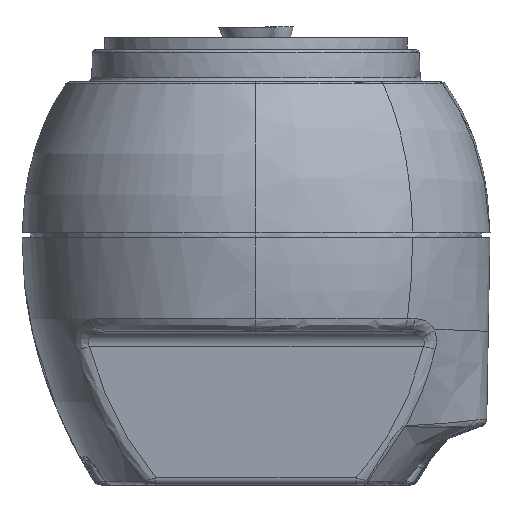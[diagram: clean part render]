
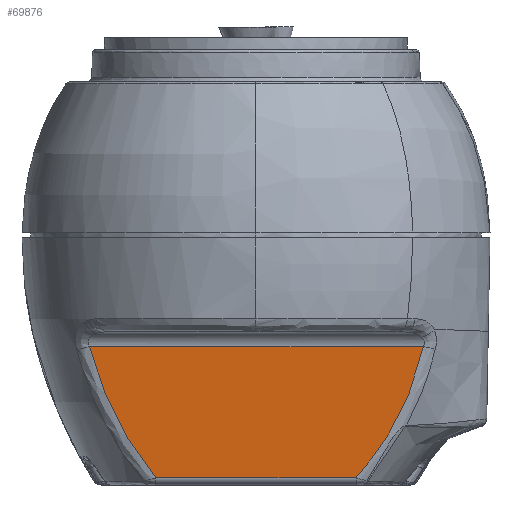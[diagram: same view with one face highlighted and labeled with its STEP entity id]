
A CAD part, left-side view. The second image highlights one B-rep face of the part: STEP entity #69876.
In plain terms, the highlighted planar face has unit normal (-0.996, 0, -0.087).
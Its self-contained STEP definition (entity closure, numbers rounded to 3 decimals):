
#2793=PLANE('',#75458);
#8733=FACE_OUTER_BOUND('',#12317,.T.);
#12317=EDGE_LOOP('',(#61502,#61503,#61504,#61505));
#13920=B_SPLINE_CURVE_WITH_KNOTS('',3,(#183064,#183065,#183066,#183067,
#183068,#183069,#183070,#183071,#183072,#183073,#183074,#183075,#183076,
#183077,#183078,#183079,#183080,#183081,#183082,#183083,#183084,#183085,
#183086,#183087,#183088,#183089,#183090,#183091,#183092,#183093,#183094,
#183095,#183096,#183097,#183098,#183099,#183100,#183101,#183102,#183103,
#183104,#183105,#183106,#183107,#183108,#183109,#183110,#183111,#183112,
#183113,#183114,#183115,#183116,#183117,#183118,#183119,#183120,#183121),
 .UNSPECIFIED.,.F.,.F.,(4,3,3,3,3,3,3,3,3,3,3,3,3,3,3,3,3,3,3,4),(0.,0.075,
0.133,0.206,0.257,0.333,0.371,
0.425,0.478,0.531,0.574,
0.631,0.661,0.667,0.738,0.807,
0.869,0.925,0.975,1.),.UNSPECIFIED.);
#13935=B_SPLINE_CURVE_WITH_KNOTS('',3,(#184168,#184169,#184170,#184171,
#184172,#184173,#184174,#184175,#184176,#184177,#184178,#184179,#184180,
#184181,#184182,#184183,#184184,#184185,#184186,#184187,#184188,#184189),
 .UNSPECIFIED.,.F.,.F.,(4,3,3,3,3,3,3,4),(0.,0.094,0.245,
0.416,0.588,0.744,0.881,1.),
 .UNSPECIFIED.);
#19637=LINE('',#184163,#25380);
#19638=LINE('',#184167,#25381);
#25380=VECTOR('',#92147,12.429);
#25381=VECTOR('',#92152,20.716);
#31809=VERTEX_POINT('',#182831);
#31811=VERTEX_POINT('',#183063);
#31829=VERTEX_POINT('',#184162);
#31830=VERTEX_POINT('',#184166);
#41716=EDGE_CURVE('',#31809,#31811,#13920,.T.);
#41760=EDGE_CURVE('',#31811,#31829,#19637,.T.);
#41762=EDGE_CURVE('',#31830,#31809,#19638,.T.);
#41763=EDGE_CURVE('',#31829,#31830,#13935,.T.);
#61502=ORIENTED_EDGE('',*,*,#41716,.F.);
#61503=ORIENTED_EDGE('',*,*,#41762,.F.);
#61504=ORIENTED_EDGE('',*,*,#41763,.F.);
#61505=ORIENTED_EDGE('',*,*,#41760,.F.);
#69876=ADVANCED_FACE('',(#8733),#2793,.F.);
#75458=AXIS2_PLACEMENT_3D('',#184165,#92150,#92151);
#92147=DIRECTION('',(0.,1.,0.));
#92150=DIRECTION('center_axis',(0.996,0.,
0.087));
#92151=DIRECTION('ref_axis',(0.087,0.,-0.996));
#92152=DIRECTION('',(0.,-1.,0.));
#182831=CARTESIAN_POINT('',(-55.761,-10.387,-18.413));
#183063=CARTESIAN_POINT('',(-55.05,-6.217,-26.544));
#183064=CARTESIAN_POINT('Ctrl Pts',(-55.761,-10.387,
-18.413));
#183065=CARTESIAN_POINT('Ctrl Pts',(-55.741,-10.335,
-18.649));
#183066=CARTESIAN_POINT('Ctrl Pts',(-55.72,-10.278,
-18.882));
#183067=CARTESIAN_POINT('Ctrl Pts',(-55.7,-10.218,
-19.113));
#183068=CARTESIAN_POINT('Ctrl Pts',(-55.684,-10.171,
-19.291));
#183069=CARTESIAN_POINT('Ctrl Pts',(-55.669,-10.122,
-19.468));
#183070=CARTESIAN_POINT('Ctrl Pts',(-55.654,-10.071,
-19.642));
#183071=CARTESIAN_POINT('Ctrl Pts',(-55.635,-10.008,
-19.861));
#183072=CARTESIAN_POINT('Ctrl Pts',(-55.616,-9.941,
-20.076));
#183073=CARTESIAN_POINT('Ctrl Pts',(-55.597,-9.871,
-20.288));
#183074=CARTESIAN_POINT('Ctrl Pts',(-55.584,-9.822,
-20.437));
#183075=CARTESIAN_POINT('Ctrl Pts',(-55.571,-9.772,
-20.584));
#183076=CARTESIAN_POINT('Ctrl Pts',(-55.559,-9.72,
-20.729));
#183077=CARTESIAN_POINT('Ctrl Pts',(-55.54,-9.642,
-20.947));
#183078=CARTESIAN_POINT('Ctrl Pts',(-55.521,-9.56,
-21.162));
#183079=CARTESIAN_POINT('Ctrl Pts',(-55.502,-9.476,
-21.372));
#183080=CARTESIAN_POINT('Ctrl Pts',(-55.493,-9.434,
-21.477));
#183081=CARTESIAN_POINT('Ctrl Pts',(-55.484,-9.392,
-21.58));
#183082=CARTESIAN_POINT('Ctrl Pts',(-55.475,-9.348,
-21.682));
#183083=CARTESIAN_POINT('Ctrl Pts',(-55.463,-9.288,
-21.825));
#183084=CARTESIAN_POINT('Ctrl Pts',(-55.45,-9.226,
-21.965));
#183085=CARTESIAN_POINT('Ctrl Pts',(-55.438,-9.162,
-22.105));
#183086=CARTESIAN_POINT('Ctrl Pts',(-55.426,-9.098,
-22.244));
#183087=CARTESIAN_POINT('Ctrl Pts',(-55.414,-9.032,
-22.382));
#183088=CARTESIAN_POINT('Ctrl Pts',(-55.402,-8.964,
-22.519));
#183089=CARTESIAN_POINT('Ctrl Pts',(-55.39,-8.897,
-22.656));
#183090=CARTESIAN_POINT('Ctrl Pts',(-55.378,-8.827,
-22.792));
#183091=CARTESIAN_POINT('Ctrl Pts',(-55.366,-8.755,
-22.928));
#183092=CARTESIAN_POINT('Ctrl Pts',(-55.357,-8.696,
-23.038));
#183093=CARTESIAN_POINT('Ctrl Pts',(-55.347,-8.636,
-23.149));
#183094=CARTESIAN_POINT('Ctrl Pts',(-55.337,-8.574,
-23.259));
#183095=CARTESIAN_POINT('Ctrl Pts',(-55.325,-8.492,
-23.403));
#183096=CARTESIAN_POINT('Ctrl Pts',(-55.312,-8.408,
-23.547));
#183097=CARTESIAN_POINT('Ctrl Pts',(-55.299,-8.321,
-23.691));
#183098=CARTESIAN_POINT('Ctrl Pts',(-55.293,-8.275,
-23.767));
#183099=CARTESIAN_POINT('Ctrl Pts',(-55.286,-8.229,
-23.843));
#183100=CARTESIAN_POINT('Ctrl Pts',(-55.28,-8.181,-23.918));
#183101=CARTESIAN_POINT('Ctrl Pts',(-55.278,-8.172,
-23.933));
#183102=CARTESIAN_POINT('Ctrl Pts',(-55.277,-8.162,
-23.948));
#183103=CARTESIAN_POINT('Ctrl Pts',(-55.276,-8.153,-23.963));
#183104=CARTESIAN_POINT('Ctrl Pts',(-55.26,-8.038,
-24.144));
#183105=CARTESIAN_POINT('Ctrl Pts',(-55.244,-7.919,
-24.327));
#183106=CARTESIAN_POINT('Ctrl Pts',(-55.228,-7.794,-24.511));
#183107=CARTESIAN_POINT('Ctrl Pts',(-55.212,-7.674,
-24.688));
#183108=CARTESIAN_POINT('Ctrl Pts',(-55.197,-7.549,
-24.866));
#183109=CARTESIAN_POINT('Ctrl Pts',(-55.181,-7.419,
-25.044));
#183110=CARTESIAN_POINT('Ctrl Pts',(-55.167,-7.302,
-25.205));
#183111=CARTESIAN_POINT('Ctrl Pts',(-55.153,-7.181,
-25.365));
#183112=CARTESIAN_POINT('Ctrl Pts',(-55.139,-7.056,
-25.526));
#183113=CARTESIAN_POINT('Ctrl Pts',(-55.126,-6.944,
-25.671));
#183114=CARTESIAN_POINT('Ctrl Pts',(-55.114,-6.828,
-25.816));
#183115=CARTESIAN_POINT('Ctrl Pts',(-55.101,-6.71,
-25.96));
#183116=CARTESIAN_POINT('Ctrl Pts',(-55.089,-6.602,
-26.092));
#183117=CARTESIAN_POINT('Ctrl Pts',(-55.078,-6.492,
-26.223));
#183118=CARTESIAN_POINT('Ctrl Pts',(-55.067,-6.38,
-26.354));
#183119=CARTESIAN_POINT('Ctrl Pts',(-55.061,-6.326,
-26.417));
#183120=CARTESIAN_POINT('Ctrl Pts',(-55.055,-6.272,
-26.48));
#183121=CARTESIAN_POINT('Ctrl Pts',(-55.05,-6.217,
-26.544));
#184162=CARTESIAN_POINT('',(-55.05,6.213,-26.544));
#184163=CARTESIAN_POINT('',(-55.05,-6.217,-26.544));
#184165=CARTESIAN_POINT('Origin',(-55.469,0.008,-21.75));
#184166=CARTESIAN_POINT('',(-55.761,10.329,-18.413));
#184167=CARTESIAN_POINT('',(-55.761,10.329,-18.413));
#184168=CARTESIAN_POINT('Ctrl Pts',(-55.05,6.213,
-26.544));
#184169=CARTESIAN_POINT('Ctrl Pts',(-55.069,6.398,
-26.325));
#184170=CARTESIAN_POINT('Ctrl Pts',(-55.089,6.577,
-26.102));
#184171=CARTESIAN_POINT('Ctrl Pts',(-55.108,6.751,
-25.875));
#184172=CARTESIAN_POINT('Ctrl Pts',(-55.141,7.033,
-25.506));
#184173=CARTESIAN_POINT('Ctrl Pts',(-55.174,7.301,-25.127));
#184174=CARTESIAN_POINT('Ctrl Pts',(-55.208,7.554,
-24.738));
#184175=CARTESIAN_POINT('Ctrl Pts',(-55.246,7.84,
-24.3));
#184176=CARTESIAN_POINT('Ctrl Pts',(-55.286,8.108,
-23.849));
#184177=CARTESIAN_POINT('Ctrl Pts',(-55.326,8.359,
-23.39));
#184178=CARTESIAN_POINT('Ctrl Pts',(-55.366,8.612,
-22.927));
#184179=CARTESIAN_POINT('Ctrl Pts',(-55.408,8.847,-22.454));
#184180=CARTESIAN_POINT('Ctrl Pts',(-55.45,9.065,
-21.974));
#184181=CARTESIAN_POINT('Ctrl Pts',(-55.488,9.262,
-21.541));
#184182=CARTESIAN_POINT('Ctrl Pts',(-55.526,9.444,-21.101));
#184183=CARTESIAN_POINT('Ctrl Pts',(-55.565,9.613,
-20.655));
#184184=CARTESIAN_POINT('Ctrl Pts',(-55.6,9.761,
-20.262));
#184185=CARTESIAN_POINT('Ctrl Pts',(-55.634,9.899,
-19.864));
#184186=CARTESIAN_POINT('Ctrl Pts',(-55.669,10.026,
-19.463));
#184187=CARTESIAN_POINT('Ctrl Pts',(-55.7,10.135,
-19.116));
#184188=CARTESIAN_POINT('Ctrl Pts',(-55.73,10.236,-18.765));
#184189=CARTESIAN_POINT('Ctrl Pts',(-55.761,10.329,
-18.413));
